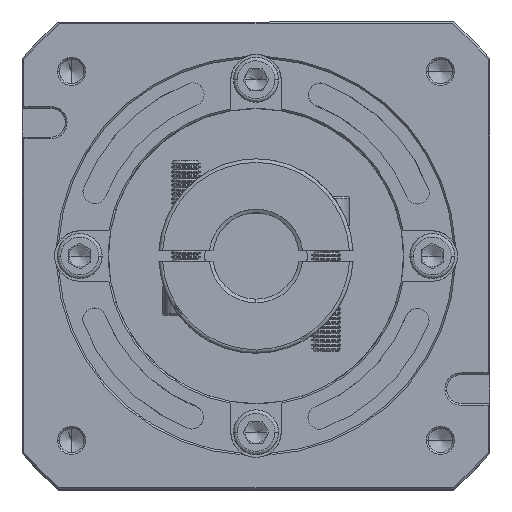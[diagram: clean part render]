
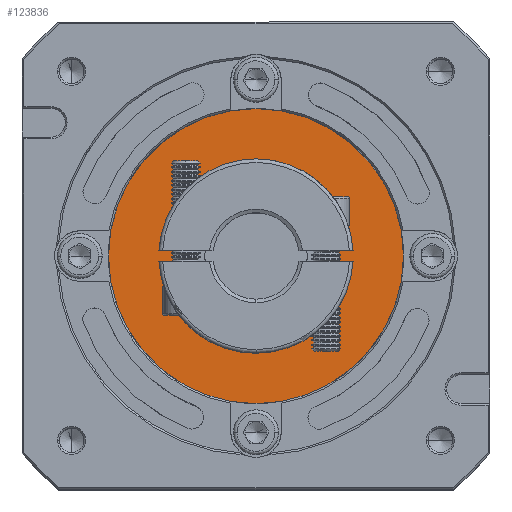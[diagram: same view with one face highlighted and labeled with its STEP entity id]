
A CAD part, top view. The second image highlights one B-rep face of the part: STEP entity #123836.
In plain terms, the highlighted planar face has unit normal (0, 0, 1).
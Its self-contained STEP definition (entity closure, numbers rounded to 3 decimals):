
#843 = CIRCLE ( 'NONE', #41981, 20. ) ;
#3837 = CIRCLE ( 'NONE', #45066, 41. ) ;
#4927 = EDGE_LOOP ( 'NONE', ( #90266, #92119 ) ) ;
#6093 = CARTESIAN_POINT ( 'NONE',  ( 107.579, 48.833, -30.666 ) ) ;
#13669 = EDGE_LOOP ( 'NONE', ( #43725, #108176 ) ) ;
#14991 = CARTESIAN_POINT ( 'NONE',  ( 86.579, 48.833, -30.666 ) ) ;
#15374 = VERTEX_POINT ( 'NONE', #14991 ) ;
#15430 = FACE_BOUND ( 'NONE', #13669, .T. ) ;
#15883 = CIRCLE ( 'NONE', #108021, 41. ) ;
#18092 = AXIS2_PLACEMENT_3D ( 'NONE', #20474, #30679, #93386 ) ;
#20474 = CARTESIAN_POINT ( 'NONE',  ( 66.579, 48.833, -30.666 ) ) ;
#28614 = DIRECTION ( 'NONE',  ( 1., 0., 0. ) ) ;
#30679 = DIRECTION ( 'NONE',  ( 0., 0., 1. ) ) ;
#36380 = DIRECTION ( 'NONE',  ( 0., 0., 1. ) ) ;
#36515 = EDGE_CURVE ( 'NONE', #74958, #76584, #3837, .T. ) ;
#38635 = DIRECTION ( 'NONE',  ( 1., 0., 0. ) ) ;
#41717 = EDGE_CURVE ( 'NONE', #128705, #15374, #59582, .T. ) ;
#41981 = AXIS2_PLACEMENT_3D ( 'NONE', #58150, #58616, #28614 ) ;
#43488 = FACE_OUTER_BOUND ( 'NONE', #4927, .T. ) ;
#43725 = ORIENTED_EDGE ( 'NONE', *, *, #104916, .T. ) ;
#45066 = AXIS2_PLACEMENT_3D ( 'NONE', #79666, #36380, #90282 ) ;
#55264 = CARTESIAN_POINT ( 'NONE',  ( 66.579, 48.833, -30.666 ) ) ;
#58150 = CARTESIAN_POINT ( 'NONE',  ( 66.579, 48.833, -30.666 ) ) ;
#58616 = DIRECTION ( 'NONE',  ( 0., 0., -1. ) ) ;
#58895 = DIRECTION ( 'NONE',  ( 0., 0., -1. ) ) ;
#59582 = CIRCLE ( 'NONE', #83803, 20. ) ;
#67646 = DIRECTION ( 'NONE',  ( 0., 0., 1. ) ) ;
#74958 = VERTEX_POINT ( 'NONE', #6093 ) ;
#76584 = VERTEX_POINT ( 'NONE', #125632 ) ;
#79666 = CARTESIAN_POINT ( 'NONE',  ( 66.579, 48.833, -30.666 ) ) ;
#83803 = AXIS2_PLACEMENT_3D ( 'NONE', #101309, #58895, #38635 ) ;
#90266 = ORIENTED_EDGE ( 'NONE', *, *, #36515, .T. ) ;
#90282 = DIRECTION ( 'NONE',  ( 1., 0., 0. ) ) ;
#92119 = ORIENTED_EDGE ( 'NONE', *, *, #103686, .T. ) ;
#93386 = DIRECTION ( 'NONE',  ( 1., 0., 0. ) ) ;
#101309 = CARTESIAN_POINT ( 'NONE',  ( 66.579, 48.833, -30.666 ) ) ;
#103686 = EDGE_CURVE ( 'NONE', #76584, #74958, #15883, .T. ) ;
#104916 = EDGE_CURVE ( 'NONE', #15374, #128705, #843, .T. ) ;
#108021 = AXIS2_PLACEMENT_3D ( 'NONE', #55264, #67646, #109167 ) ;
#108176 = ORIENTED_EDGE ( 'NONE', *, *, #41717, .T. ) ;
#109049 = CARTESIAN_POINT ( 'NONE',  ( 46.579, 48.833, -30.666 ) ) ;
#109167 = DIRECTION ( 'NONE',  ( 1., 0., 0. ) ) ;
#123836 = ADVANCED_FACE ( 'NONE', ( #43488, #15430 ), #124237, .T. ) ;
#124237 = PLANE ( 'NONE',  #18092 ) ;
#125632 = CARTESIAN_POINT ( 'NONE',  ( 25.579, 48.833, -30.666 ) ) ;
#128705 = VERTEX_POINT ( 'NONE', #109049 ) ;
